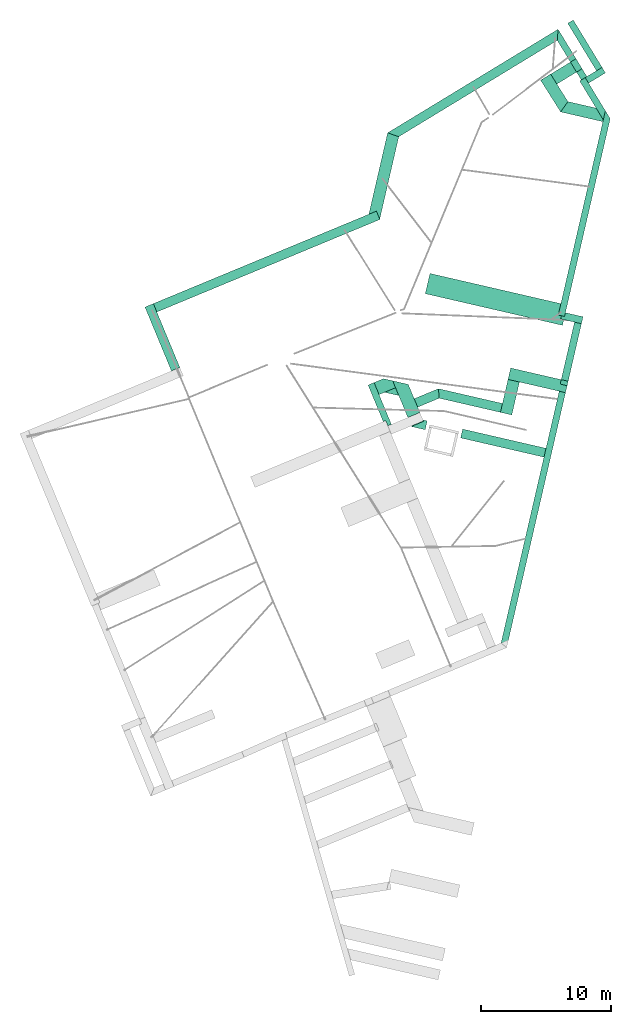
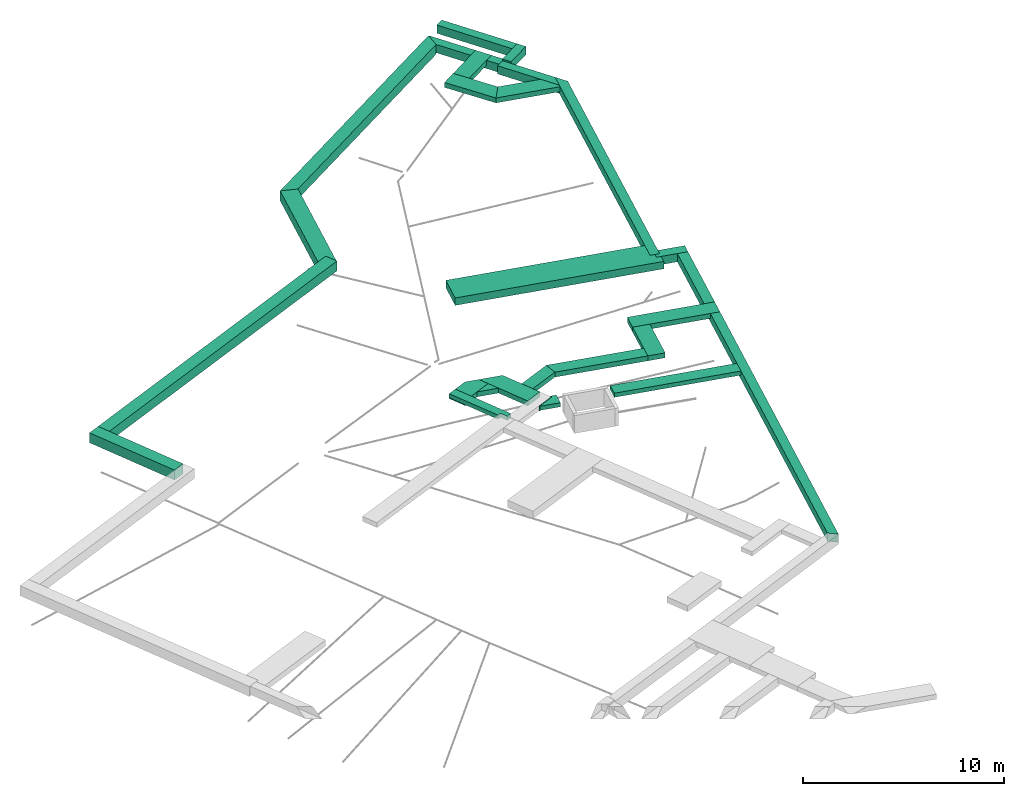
# One storey, part 5 of 6: 26 flow terminals.
"""IFC2X3 building model written with IfcOpenShell, lengths in metres."""

from ifc_helpers import new_model, entity, si_unit, converted_unit, derived_unit, money_unit, direction, frame, origin_with_axes, place, context, subcontext, project, spatial, faceted_brep, material, type_object, element, save


model = new_model("IFC2X3")

# Units and contexts
model_context = context("Model", 3, precision=1e-05, world=origin_with_axes(), true_north=direction((0.0, 1.0)))
body_context = subcontext(model_context, "Body", "Model", "MODEL_VIEW")
ifc_project = project(units=[si_unit("LENGTHUNIT", "METRE"), si_unit("AREAUNIT", "SQUARE_METRE"), si_unit("VOLUMEUNIT", "CUBIC_METRE"), converted_unit("PLANEANGLEUNIT", "DEGREE", entity("IfcPlaneAngleMeasure", 0.0174532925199), si_unit("PLANEANGLEUNIT", "RADIAN"), dimensions=[0, 0, 0, 0, 0, 0, 0]), si_unit("SOLIDANGLEUNIT", "STERADIAN"), money_unit("EUR"), converted_unit("TIMEUNIT", "Year", entity("IfcTimeMeasure", 31556926.0), si_unit("TIMEUNIT", "SECOND"), dimensions=[0, 0, 1, 0, 0, 0, 0]), si_unit("MASSUNIT", "GRAM", prefix="KILO"), si_unit("THERMODYNAMICTEMPERATUREUNIT", "DEGREE_CELSIUS"), si_unit("LUMINOUSINTENSITYUNIT", "LUMEN"), si_unit("ENERGYUNIT", "JOULE", prefix="MEGA"), derived_unit("THERMALCONDUCTANCEUNIT", [(si_unit("POWERUNIT", "WATT"), 1), (si_unit("LENGTHUNIT", "METRE"), -1), (si_unit("THERMODYNAMICTEMPERATUREUNIT", "KELVIN"), -1)]), derived_unit("SPECIFICHEATCAPACITYUNIT", [(si_unit("ENERGYUNIT", "JOULE"), 1), (si_unit("MASSUNIT", "GRAM", prefix="KILO"), -1), (si_unit("THERMODYNAMICTEMPERATUREUNIT", "KELVIN"), -1)]), derived_unit("MASSDENSITYUNIT", [(si_unit("MASSUNIT", "GRAM", prefix="KILO"), 1), (si_unit("VOLUMEUNIT", "CUBIC_METRE"), -1)])], contexts=[model_context])

# Site, building, storey
site_placement = place(None, origin_with_axes())
site = spatial("IfcSite", under=ifc_project, at=site_placement, Name="Site", CompositionType="ELEMENT")
building_placement = place(site_placement, origin_with_axes())
building = spatial("IfcBuilding", under=site, at=building_placement, Name="Bâtiment", CompositionType="ELEMENT")
storey_placement = place(building_placement, frame((0.0, 0.0, -5.7), z_axis=(0.0, 0.0, 1.0), x_axis=(1.0, 0.0, 0.0)))
storey = spatial("IfcBuildingStorey", under=building, at=storey_placement, Name="-2. Etage", CompositionType="ELEMENT", Elevation=-5.7)

# Flow terminals
ifc_material = material(Name="Béton")
electric_appliance_type_1 = type_object("IfcElectricApplianceType", Name="Empattement 15", PredefinedType="WASHINGMACHINE")
flow_terminal_1_placement = place(storey_placement, frame((-14.0904183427, 11.6221148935, 1.85), z_axis=(0.0, 0.0, 1.0), x_axis=(1.0, 0.0, 0.0)))
element("IfcFlowTerminal", 1, at=flow_terminal_1_placement, inside=storey, type_object=electric_appliance_type_1, material=ifc_material, Name="Semelle filante:(90x60T) ex", context=body_context, shape_type="Brep", body=[
    faceted_brep([(1.44540482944, 6.63701743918, 0.0), (1.44540482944, 6.63701743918, 0.6), (1.44894355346, 6.63620074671, 0.6), (1.44894355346, 6.63620074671, 0.0), (1.44460822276, 6.63356574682, 0.0), (0.0, 0.374086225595, 0.0), (0.0, 0.374086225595, 0.6), (1.44460822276, 6.63356574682, 0.6), (0.582041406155, 0.615493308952, 0.0), (2.29907224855, 6.3337515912, 0.0), (0.837322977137, 0.0, 0.0), (0.582041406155, 0.615493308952, 0.6), (0.837322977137, 0.0, 0.6), (2.29907224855, 6.3337515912, 0.6)], [[[0, 1, 2, 3]], [[1, 0, 4, 5, 6, 7]], [[2, 1, 7]], [[7, 4, 3, 2]], [[0, 3, 4]], [[8, 5, 4, 9, 10]], [[8, 11, 6, 5]], [[6, 11, 12, 13, 7]], [[4, 7, 13, 9]], [[12, 10, 9, 13]], [[11, 8, 10, 12]]]),
])
electric_appliance_type_2 = type_object("IfcElectricApplianceType", Name="Empattement 14", PredefinedType="WASHINGMACHINE")
flow_terminal_2_placement = place(storey_placement, frame((0.0, 0.0, 2.45), z_axis=(0.0, 0.0, 1.0), x_axis=(1.0, 0.0, 0.0)))
element("IfcFlowTerminal", 2, at=flow_terminal_2_placement, inside=storey, type_object=electric_appliance_type_2, material=ifc_material, Name="Semelle filante:(90x30T)", context=body_context, shape_type="Brep", body=[
    faceted_brep([(1.83515172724, 23.9521040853, -0.3), (1.40788195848, 23.6924109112, -0.3), (1.40788195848, 23.6924109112, 0.0), (1.83515172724, 23.9521040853, 0.0), (2.30259943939, 23.1830185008, -0.3), (1.87532967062, 22.9233253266, -0.3), (0.362922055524, 22.0040889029, -0.3), (-0.118144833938, 22.7648967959, -0.3), (-0.118144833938, 22.7648967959, 0.0), (0.362922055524, 22.0040889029, 0.0), (1.87532967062, 22.9233253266, 0.0), (2.30259943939, 23.1830185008, 0.0)], [[[0, 1, 2, 3]], [[0, 4, 5, 6, 7, 1]], [[1, 7, 8, 2]], [[3, 2, 8, 9, 10, 11]], [[4, 0, 3, 11]], [[5, 4, 11, 10]], [[6, 5, 10, 9]], [[7, 6, 9, 8]]]),
    faceted_brep([(-0.883992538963, 22.292064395, -0.3), (-0.584053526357, 22.4817190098, -0.3), (-0.584053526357, 22.4817190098, 0.0), (-0.883992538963, 22.292064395, 0.0), (-0.887350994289, 22.2973757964, -0.3), (-0.887350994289, 22.2973757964, 0.0)], [[[0, 1, 2, 3]], [[0, 4, 1]], [[1, 4, 5, 2]], [[3, 2, 5]], [[4, 0, 3, 5]]]),
])
electric_appliance_type_3 = type_object("IfcElectricApplianceType", Name="IFC Footing Extruded", PredefinedType="WASHINGMACHINE")
flow_terminal_3_placement = place(storey_placement, frame((0.0, 0.0, 2.45), z_axis=(0.0, 0.0, 1.0), x_axis=(1.0, 0.0, 0.0)))
element("IfcFlowTerminal", 3, at=flow_terminal_3_placement, inside=storey, type_object=electric_appliance_type_3, material=ifc_material, Name="Semelle filante:(100x30T)", context=body_context, shape_type="Brep", body=[
    faceted_brep([(-11.7897046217, -1.94358203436, -0.3), (-12.0390824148, -1.34232089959, -0.3), (-12.0390824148, -1.34232089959, 0.0), (-11.7897046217, -1.94358203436, 0.0), (-12.8813285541, -1.69164912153, -0.3), (-12.8813285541, -1.69164912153, 0.0)], [[[0, 1, 2, 3]], [[0, 4, 1]], [[1, 4, 5, 2]], [[3, 2, 5]], [[4, 0, 3, 5]]]),
])
flow_terminal_4_placement = place(storey_placement, frame((0.0, 0.0, 2.45), z_axis=(0.0, 0.0, 1.0), x_axis=(1.0, 0.0, 0.0)))
element("IfcFlowTerminal", 4, at=flow_terminal_4_placement, inside=storey, type_object=electric_appliance_type_3, material=ifc_material, Name="Semelle filante:(160x45T)", context=body_context, shape_type="Brep", body=[
    faceted_brep([(-9.75315861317, 5.88690147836, -0.45), (0.796740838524, 3.45223142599, -0.45), (0.796740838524, 3.45223142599, 0.0), (-9.75315861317, 5.88690147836, 0.0), (-9.3933724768, 7.44592487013, -0.45), (1.1565269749, 5.01125481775, -0.45), (1.0216061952, 4.42661680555, -0.45), (0.778009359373, 4.48283585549, -0.45), (0.654327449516, 3.94692281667, -0.45), (0.897929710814, 3.8907025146, -0.45), (0.897929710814, 3.8907025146, 0.0), (0.654327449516, 3.94692281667, 0.0), (0.778009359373, 4.48283585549, 0.0), (1.0216061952, 4.42661680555, 0.0), (1.1565269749, 5.01125481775, 0.0), (-9.3933724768, 7.44592487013, 0.0)], [[[0, 1, 2, 3]], [[0, 4, 5, 6, 7, 8, 9, 1]], [[1, 9, 10, 2]], [[3, 2, 10, 11, 12, 13, 14, 15]], [[4, 0, 3, 15]], [[5, 4, 15, 14]], [[6, 5, 14, 13]], [[7, 6, 13, 12]], [[8, 7, 12, 11]], [[9, 8, 11, 10]]]),
])
flow_terminal_5_placement = place(storey_placement, frame((0.0, 0.0, 2.45), z_axis=(0.0, 0.0, 1.0), x_axis=(1.0, 0.0, 0.0)))
element("IfcFlowTerminal", 5, at=flow_terminal_5_placement, inside=storey, type_object=electric_appliance_type_3, material=ifc_material, Name="Semelle filante:(50x25T)", context=body_context, shape_type="Brep", body=[
    faceted_brep([(-12.9851849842, -3.94854390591, 0.0), (-13.7686151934, -2.05965824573, 0.0), (-13.7686151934, -2.05965824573, -0.25), (-12.9851849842, -3.94854390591, -0.25), (-12.7982340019, -3.87100451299, 0.0), (-12.6325796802, -4.27040457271, 0.0), (-12.3576798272, -4.1563876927, 0.0), (-13.3067643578, -1.86810197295, 0.0), (-13.6898769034, -0.944400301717, 0.0), (-14.151727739, -1.1359565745, 0.0), (-14.151727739, -1.1359565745, -0.25), (-13.6898769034, -0.944400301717, -0.25), (-13.3067643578, -1.86810197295, -0.25), (-12.3576798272, -4.1563876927, -0.25), (-12.6325796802, -4.27040457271, -0.25), (-12.7982340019, -3.87100451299, -0.25)], [[[0, 1, 2, 3]], [[0, 4, 5, 6, 7, 8, 9, 1]], [[1, 9, 10, 2]], [[3, 2, 10, 11, 12, 13, 14, 15]], [[4, 0, 3, 15]], [[5, 4, 15, 14]], [[6, 5, 14, 13]], [[7, 6, 13, 12]], [[8, 7, 12, 11]], [[9, 8, 11, 10]]]),
])
flow_terminal_6_placement = place(storey_placement, frame((0.0, 0.0, 2.45), z_axis=(0.0, 0.0, 1.0), x_axis=(1.0, 0.0, 0.0)))
element("IfcFlowTerminal", 6, at=flow_terminal_6_placement, inside=storey, type_object=electric_appliance_type_3, material=ifc_material, Name="Semelle filante:(70x30T)", context=body_context, shape_type="Brep", body=[
    faceted_brep([(-8.68248253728, -2.14754639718, -0.3), (-3.97652122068, -3.23362238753, -0.3), (-3.97652122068, -3.23362238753, 0.0), (-8.68248253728, -2.14754639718, 0.0), (-8.74354766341, -1.41505320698, -0.3), (-3.81910788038, -2.55155124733, -0.3), (-3.81910788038, -2.55155124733, 0.0), (-8.74354766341, -1.41505320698, 0.0)], [[[0, 1, 2, 3]], [[0, 4, 5, 1]], [[1, 5, 6, 2]], [[3, 2, 6, 7]], [[4, 0, 3, 7]], [[5, 4, 7, 6]]]),
])
flow_terminal_7_placement = place(storey_placement, frame((0.0, 0.0, 2.45), z_axis=(0.0, 0.0, 1.0), x_axis=(1.0, 0.0, 0.0)))
element("IfcFlowTerminal", 7, at=flow_terminal_7_placement, inside=storey, type_object=electric_appliance_type_3, material=ifc_material, Name="Semelle filante:(70x30T)", context=body_context, shape_type="Brep", body=[
    faceted_brep([(-10.6059392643, -2.18749479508, -0.3), (-10.3377604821, -2.8340859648, -0.3), (-10.3377604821, -2.8340859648, 0.0), (-10.6059392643, -2.18749479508, 0.0), (-8.74354766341, -1.41505320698, -0.3), (-8.68248253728, -2.14754639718, -0.3), (-8.68248253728, -2.14754639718, 0.0), (-8.74354766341, -1.41505320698, 0.0)], [[[0, 1, 2, 3]], [[0, 4, 5, 1]], [[1, 5, 6, 2]], [[3, 2, 6, 7]], [[4, 0, 3, 7]], [[5, 4, 7, 6]]]),
])
flow_terminal_8_placement = place(storey_placement, frame((0.0, 0.0, 2.45), z_axis=(0.0, 0.0, 1.0), x_axis=(1.0, 0.0, 0.0)))
element("IfcFlowTerminal", 8, at=flow_terminal_8_placement, inside=storey, type_object=electric_appliance_type_3, material=ifc_material, Name="Semelle filante:(90x30T)", context=body_context, shape_type="Brep", body=[
    faceted_brep([(1.23030715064, -0.843291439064, -0.3), (-3.18945451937, 0.176733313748, -0.3), (-3.18945451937, 0.176733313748, 0.0), (1.23030715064, -0.843291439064, 0.0), (1.0279185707, -1.720240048, -0.3), (-3.39184309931, -0.700215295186, -0.3), (-3.39184309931, -0.700215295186, 0.0), (1.0279185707, -1.720240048, 0.0)], [[[0, 1, 2, 3]], [[0, 4, 5, 1]], [[1, 5, 6, 2]], [[3, 2, 6, 7]], [[4, 0, 3, 7]], [[5, 4, 7, 6]]]),
])
flow_terminal_9_placement = place(storey_placement, frame((0.0, 0.0, 2.45), z_axis=(0.0, 0.0, 1.0), x_axis=(1.0, 0.0, 0.0)))
element("IfcFlowTerminal", 9, at=flow_terminal_9_placement, inside=storey, type_object=electric_appliance_type_3, material=ifc_material, Name="Semelle filante:(90x30T)", context=body_context, shape_type="Brep", body=[
    faceted_brep([(-3.09957261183, -3.43601096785, -0.3), (-2.51489449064, -0.902603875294, -0.3), (-2.51489449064, -0.902603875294, 0.0), (-3.09957261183, -3.43601096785, 0.0), (-3.97652122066, -3.23362238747, -0.3), (-3.39184309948, -0.700215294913, -0.3), (-3.39184309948, -0.700215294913, 0.0), (-3.97652122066, -3.23362238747, 0.0)], [[[0, 1, 2, 3]], [[0, 4, 5, 1]], [[1, 5, 6, 2]], [[3, 2, 6, 7]], [[4, 0, 3, 7]], [[5, 4, 7, 6]]]),
])
flow_terminal_10_placement = place(storey_placement, frame((0.0, 0.0, 2.45), z_axis=(0.0, 0.0, 1.0), x_axis=(1.0, 0.0, 0.0)))
element("IfcFlowTerminal", 10, at=flow_terminal_10_placement, inside=storey, type_object=electric_appliance_type_3, material=ifc_material, Name="Semelle filante:(90x30T)", context=body_context, shape_type="Brep", body=[
    faceted_brep([(-0.883992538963, 22.292064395, -0.3), (0.652603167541, 19.8619363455, -0.3), (0.652603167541, 19.8619363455, 0.0), (-0.883992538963, 22.292064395, 0.0), (-0.584053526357, 22.4817190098, -0.3), (-0.123303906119, 22.7730558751, -0.3), (-0.118144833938, 22.7648967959, -0.3), (0.362922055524, 22.0040889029, -0.3), (1.21553818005, 20.6556754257, -0.3), (1.21553818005, 20.6556754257, 0.0), (0.362922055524, 22.0040889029, 0.0), (-0.118144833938, 22.7648967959, 0.0), (-0.123303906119, 22.7730558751, 0.0), (-0.584053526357, 22.4817190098, 0.0)], [[[0, 1, 2, 3]], [[0, 4, 5, 6, 7, 8, 1]], [[1, 8, 9, 2]], [[3, 2, 9, 10, 11, 12, 13]], [[4, 0, 3, 13]], [[5, 4, 13, 12]], [[6, 5, 12, 11]], [[7, 6, 11, 10]], [[8, 7, 10, 9]]]),
])
flow_terminal_11_placement = place(storey_placement, frame((0.0, 0.0, 2.45), z_axis=(0.0, 0.0, 1.0), x_axis=(1.0, 0.0, 0.0)))
element("IfcFlowTerminal", 11, at=flow_terminal_11_placement, inside=storey, type_object=electric_appliance_type_3, material=ifc_material, Name="Semelle filante:(90x30T)", context=body_context, shape_type="Brep", body=[
    faceted_brep([(1.21553818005, 20.6556754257, -0.3), (0.652603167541, 19.8619363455, -0.3), (0.652603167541, 19.8619363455, 0.0), (1.21553818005, 20.6556754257, 0.0), (3.38195363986, 20.155694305, -0.3), (3.93020141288, 19.253669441, -0.3), (3.89773829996, 19.113000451, -0.3), (3.89773829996, 19.113000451, 0.0), (3.93020141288, 19.253669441, 0.0), (3.38195363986, 20.155694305, 0.0)], [[[0, 1, 2, 3]], [[0, 4, 5, 6, 1]], [[1, 6, 7, 2]], [[3, 2, 7, 8, 9]], [[4, 0, 3, 9]], [[5, 4, 9, 8]], [[6, 5, 8, 7]]]),
])
flow_terminal_12_placement = place(storey_placement, frame((0.0, 0.0, 2.45), z_axis=(0.0, 0.0, 1.0), x_axis=(1.0, 0.0, 0.0)))
element("IfcFlowTerminal", 12, at=flow_terminal_12_placement, inside=storey, type_object=electric_appliance_type_3, material=ifc_material, Name="Semelle filante:(50x50T) ex", context=body_context, shape_type="Brep", body=[
    faceted_brep([(4.09122465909, 19.9514145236, -0.5), (3.93020141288, 19.253669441, -0.5), (3.93020141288, 19.253669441, 0.0), (4.09122465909, 19.9514145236, 0.0), (4.46314905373, 19.3394921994, -0.5), (1.0216061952, 4.42661680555, -0.5), (0.954146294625, 4.13429991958, -0.5), (0.710545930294, 4.19051718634, -0.5), (0.466951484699, 4.2467330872, -0.5), (0.466951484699, 4.2467330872, 0.0), (0.710545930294, 4.19051718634, 0.0), (0.954146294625, 4.13429991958, 0.0), (1.0216061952, 4.42661680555, 0.0), (4.46314905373, 19.3394921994, 0.0)], [[[0, 1, 2, 3]], [[0, 4, 5, 6, 7, 8, 1]], [[1, 8, 9, 2]], [[3, 2, 9, 10, 11, 12, 13]], [[4, 0, 3, 13]], [[5, 4, 13, 12]], [[6, 5, 12, 11]], [[7, 6, 11, 10]], [[8, 7, 10, 9]]]),
])
flow_terminal_13_placement = place(storey_placement, frame((0.0, 0.0, 2.45), z_axis=(0.0, 0.0, 1.0), x_axis=(1.0, 0.0, 0.0)))
element("IfcFlowTerminal", 13, at=flow_terminal_13_placement, inside=storey, type_object=electric_appliance_type_3, material=ifc_material, Name="Semelle filante:(50x50T) ex", context=body_context, shape_type="Brep", body=[
    faceted_brep([(2.11414978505, 22.2415953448, -0.5), (3.93020141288, 19.253669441, -0.5), (3.93020141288, 19.253669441, 0.0), (2.11414978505, 22.2415953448, 0.0), (2.24233072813, 22.3195033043, -0.5), (2.54141955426, 22.5012885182, -0.5), (2.75391782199, 22.1516679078, -0.5), (4.09122465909, 19.9514145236, -0.5), (4.09122465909, 19.9514145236, 0.0), (2.75391782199, 22.1516679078, 0.0), (2.54141955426, 22.5012885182, 0.0), (2.24233072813, 22.3195033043, 0.0)], [[[0, 1, 2, 3]], [[0, 4, 5, 6, 7, 1]], [[1, 7, 8, 2]], [[3, 2, 8, 9, 10, 11]], [[4, 0, 3, 11]], [[5, 4, 11, 10]], [[6, 5, 10, 9]], [[7, 6, 9, 8]]]),
])
flow_terminal_14_placement = place(storey_placement, frame((0.0, 0.0, 2.45), z_axis=(0.0, 0.0, 1.0), x_axis=(1.0, 0.0, 0.0)))
element("IfcFlowTerminal", 14, at=flow_terminal_14_placement, inside=storey, type_object=electric_appliance_type_3, material=ifc_material, Name="Semelle filante:(50x50T) ex", context=body_context, shape_type="Brep", body=[
    faceted_brep([(2.2521101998, 3.57817488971, -0.5), (2.37579210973, 4.11408792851, -0.5), (2.37579210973, 4.11408792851, 0.0), (2.2521101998, 3.57817488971, 0.0), (1.71619716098, 3.70185679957, -0.5), (0.654327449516, 3.94692281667, -0.5), (0.710545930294, 4.19051718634, -0.5), (0.954146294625, 4.13429991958, -0.5), (1.0216061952, 4.42661680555, -0.5), (1.0216061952, 4.42661680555, 0.0), (0.954146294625, 4.13429991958, 0.0), (0.710545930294, 4.19051718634, 0.0), (0.654327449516, 3.94692281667, 0.0), (1.71619716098, 3.70185679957, 0.0)], [[[0, 1, 2, 3]], [[0, 4, 5, 6, 7, 8, 1]], [[1, 8, 9, 2]], [[3, 2, 9, 10, 11, 12, 13]], [[4, 0, 3, 13]], [[5, 4, 13, 12]], [[6, 5, 12, 11]], [[7, 6, 11, 10]], [[8, 7, 10, 9]]]),
])
flow_terminal_15_placement = place(storey_placement, frame((0.0, 0.0, 2.45), z_axis=(0.0, 0.0, 1.0), x_axis=(1.0, 0.0, 0.0)))
element("IfcFlowTerminal", 15, at=flow_terminal_15_placement, inside=storey, type_object=electric_appliance_type_3, material=ifc_material, Name="Semelle filante:(50x50T) ex", context=body_context, shape_type="Brep", body=[
    faceted_brep([(1.19619134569, 26.668804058, -0.4), (3.40877717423, 23.0284656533, -0.4), (3.40877717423, 23.0284656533, 0.1), (1.19619134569, 26.668804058, 0.1), (1.62346111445, 26.9284972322, -0.4), (3.83604694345, 23.2881588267, -0.4), (3.83604694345, 23.2881588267, 0.1), (1.62346111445, 26.9284972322, 0.1)], [[[0, 1, 2, 3]], [[0, 4, 5, 1]], [[1, 5, 6, 2]], [[3, 2, 6, 7]], [[4, 0, 3, 7]], [[5, 4, 7, 6]]]),
])
flow_terminal_16_placement = place(storey_placement, frame((0.0, 0.0, 2.45), z_axis=(0.0, 0.0, 1.0), x_axis=(1.0, 0.0, 0.0)))
element("IfcFlowTerminal", 16, at=flow_terminal_16_placement, inside=storey, type_object=electric_appliance_type_3, material=ifc_material, Name="Semelle filante:(50x50T) ex", context=body_context, shape_type="Brep", body=[
    faceted_brep([(2.80111272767, 22.074018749, -0.4), (4.0957401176, 22.8608890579, -0.4), (4.0957401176, 22.8608890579, 0.1), (2.80111272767, 22.074018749, 0.1), (2.75391782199, 22.1516679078, -0.4), (2.54141955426, 22.5012885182, -0.4), (2.66960049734, 22.5791964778, -0.4), (3.40877717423, 23.0284656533, -0.4), (3.83604694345, 23.2881588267, -0.4), (3.83604694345, 23.2881588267, 0.1), (3.40877717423, 23.0284656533, 0.1), (2.66960049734, 22.5791964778, 0.1), (2.54141955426, 22.5012885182, 0.1), (2.75391782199, 22.1516679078, 0.1)], [[[0, 1, 2, 3]], [[0, 4, 5, 6, 7, 8, 1]], [[1, 8, 9, 2]], [[3, 2, 9, 10, 11, 12, 13]], [[4, 0, 3, 13]], [[5, 4, 13, 12]], [[6, 5, 12, 11]], [[7, 6, 11, 10]], [[8, 7, 10, 9]]]),
])
flow_terminal_17_placement = place(storey_placement, frame((0.0, 0.0, 2.45), z_axis=(0.0, 0.0, 1.0), x_axis=(1.0, 0.0, 0.0)))
element("IfcFlowTerminal", 17, at=flow_terminal_17_placement, inside=storey, type_object=electric_appliance_type_3, material=ifc_material, Name="Semelle filante:(70x25T)", context=body_context, shape_type="Brep", body=[
    faceted_brep([(-7.03673426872, -5.19895764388, -0.25), (-0.629554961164, -6.67861336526, -0.25), (-0.629554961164, -6.67861336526, 0.0), (-7.03673426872, -5.19895764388, 0.0), (-6.87922387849, -4.51690890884, -0.25), (-0.472141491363, -5.9965422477, -0.25), (-0.472141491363, -5.9965422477, 0.0), (-6.87922387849, -4.51690890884, 0.0)], [[[0, 1, 2, 3]], [[0, 4, 5, 1]], [[1, 5, 6, 2]], [[3, 2, 6, 7]], [[4, 0, 3, 7]], [[5, 4, 7, 6]]]),
])
flow_terminal_18_placement = place(storey_placement, frame((0.0, 0.0, 2.45), z_axis=(0.0, 0.0, 1.0), x_axis=(1.0, 0.0, 0.0)))
element("IfcFlowTerminal", 18, at=flow_terminal_18_placement, inside=storey, type_object=electric_appliance_type_3, material=ifc_material, Name="Semelle filante:(70x25T)", context=body_context, shape_type="Brep", body=[
    faceted_brep([(-9.60254105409, -3.88840195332, -0.25), (-9.93201183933, -3.81236428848, -0.25), (-9.93201183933, -3.81236428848, 0.0), (-9.60254105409, -3.88840195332, 0.0), (-9.75995439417, -4.57047309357, -0.25), (-10.7997068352, -4.33051146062, -0.25), (-10.8091211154, -4.30781320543, -0.25), (-9.88541944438, -3.9247006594, -0.25), (-9.89811743, -3.89408524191, -0.25), (-9.89811743, -3.89408524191, 0.0), (-9.88541944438, -3.9247006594, 0.0), (-10.8091211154, -4.30781320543, 0.0), (-10.7997068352, -4.33051146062, 0.0), (-9.75995439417, -4.57047309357, 0.0)], [[[0, 1, 2, 3]], [[0, 4, 5, 6, 7, 8, 1]], [[1, 8, 9, 2]], [[3, 2, 9, 10, 11, 12, 13]], [[4, 0, 3, 13]], [[5, 4, 13, 12]], [[6, 5, 12, 11]], [[7, 6, 11, 10]], [[8, 7, 10, 9]]]),
])
flow_terminal_19_placement = place(storey_placement, frame((0.0, 0.0, 2.45), z_axis=(0.0, 0.0, 1.0), x_axis=(1.0, 0.0, 0.0)))
element("IfcFlowTerminal", 19, at=flow_terminal_19_placement, inside=storey, type_object=electric_appliance_type_3, material=ifc_material, Name="Semelle filante:(70x60T) ex", context=body_context, shape_type="Brep", body=[
    faceted_brep([(-31.3030577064, 4.85709894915, -0.6), (-29.2676664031, -0.0503036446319, -0.6), (-29.2676664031, -0.0503036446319, 0.0), (-31.3030577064, 4.85709894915, 0.0), (-30.6564668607, 5.12527851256, -0.6), (-30.3882872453, 4.47868768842, -0.6), (-28.6210752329, 0.217875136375, -0.6), (-28.6210752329, 0.217875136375, 0.0), (-30.3882872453, 4.47868768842, 0.0), (-30.6564668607, 5.12527851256, 0.0)], [[[0, 1, 2, 3]], [[0, 4, 5, 6, 1]], [[1, 6, 7, 2]], [[3, 2, 7, 8, 9]], [[4, 0, 3, 9]], [[5, 4, 9, 8]], [[6, 5, 8, 7]]]),
])
flow_terminal_20_placement = place(storey_placement, frame((0.0, 0.0, 2.45), z_axis=(0.0, 0.0, 1.0), x_axis=(1.0, 0.0, 0.0)))
element("IfcFlowTerminal", 20, at=flow_terminal_20_placement, inside=storey, type_object=electric_appliance_type_3, material=ifc_material, Name="Semelle filante:(70x60T) ex", context=body_context, shape_type="Brep", body=[
    faceted_brep([(-13.5083769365, 12.2376082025, -0.6), (-14.0904183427, 11.9962011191, -0.6), (-14.0904183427, 11.9962011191, 0.0), (-13.5083769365, 12.2376082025, 0.0), (-13.2530953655, 11.6221148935, -0.6), (-13.2401973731, 11.5910173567, -0.6), (-30.3882872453, 4.47868768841, -0.6), (-30.6564668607, 5.12527851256, -0.6), (-30.6564668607, 5.12527851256, 0.0), (-30.3882872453, 4.47868768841, 0.0), (-13.2401973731, 11.5910173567, 0.0), (-13.2530953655, 11.6221148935, 0.0)], [[[0, 1, 2, 3]], [[0, 4, 5, 6, 7, 1]], [[1, 7, 8, 2]], [[3, 2, 8, 9, 10, 11]], [[4, 0, 3, 11]], [[5, 4, 11, 10]], [[6, 5, 10, 9]], [[7, 6, 9, 8]]]),
])
flow_terminal_21_placement = place(storey_placement, frame((0.0, 0.0, 2.45), z_axis=(0.0, 0.0, 1.0), x_axis=(1.0, 0.0, 0.0)))
element("IfcFlowTerminal", 21, at=flow_terminal_21_placement, inside=storey, type_object=electric_appliance_type_3, material=ifc_material, Name="Semelle filante:(70x60T) ex", context=body_context, shape_type="Brep", body=[
    faceted_brep([(-11.7913460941, 17.9558664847, -0.6), (0.3933153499, 25.361664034, -0.6), (0.3933153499, 25.361664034, 0.0), (-11.7913460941, 17.9558664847, 0.0), (-12.6458101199, 18.2556806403, -0.6), (-12.6414747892, 18.2583156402, -0.6), (0.457014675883, 26.2195348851, -0.6), (0.457014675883, 26.2195348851, 0.0), (-12.6414747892, 18.2583156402, 0.0), (-12.6458101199, 18.2556806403, 0.0)], [[[0, 1, 2, 3]], [[0, 4, 5, 6, 1]], [[1, 6, 7, 2]], [[3, 2, 7, 8, 9]], [[4, 0, 3, 9]], [[5, 4, 9, 8]], [[6, 5, 8, 7]]]),
])
electric_appliance_type_4 = type_object("IfcElectricApplianceType", Name="Empattement 1", PredefinedType="WASHINGMACHINE")
flow_terminal_22_placement = place(storey_placement, frame((0.0, 0.0, 2.45), z_axis=(0.0, 0.0, 1.0), x_axis=(1.0, 0.0, 0.0)))
element("IfcFlowTerminal", 22, at=flow_terminal_22_placement, inside=storey, type_object=electric_appliance_type_4, material=ifc_material, Name="Semelle filante:(100x30T)", context=body_context, shape_type="Brep", body=[
    faceted_brep([(-9.89811743, -3.89408524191, -0.3), (-10.821819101, -4.27719778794, -0.3), (-10.821819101, -4.27719778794, 0.0), (-9.89811743, -3.89408524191, 0.0), (-9.88541944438, -3.9247006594, -0.3), (-10.8091211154, -4.30781320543, -0.3), (-10.8091211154, -4.30781320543, 0.0), (-9.88541944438, -3.9247006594, 0.0)], [[[0, 1, 2, 3]], [[0, 4, 5, 1]], [[1, 5, 6, 2]], [[3, 2, 6, 7]], [[4, 0, 3, 7]], [[5, 4, 7, 6]]]),
    faceted_brep([(-12.2604222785, -0.808660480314, -0.3), (-12.0390824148, -1.34232089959, -0.3), (-12.0390824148, -1.34232089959, 0.0), (-12.2604222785, -0.808660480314, 0.0), (-11.0632249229, -1.0849583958, -0.3), (-10.6059392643, -2.18749479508, -0.3), (-10.3377604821, -2.8340859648, -0.3), (-10.1662962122, -3.24749407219, -0.3), (-11.0899978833, -3.63060661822, -0.3), (-11.7897046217, -1.94358203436, -0.3), (-11.7897046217, -1.94358203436, 0.0), (-11.0899978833, -3.63060661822, 0.0), (-10.1662962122, -3.24749407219, 0.0), (-10.3377604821, -2.8340859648, 0.0), (-10.6059392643, -2.18749479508, 0.0), (-11.0632249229, -1.0849583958, 0.0)], [[[0, 1, 2, 3]], [[0, 4, 5, 6, 7, 8, 9, 1]], [[1, 9, 10, 2]], [[3, 2, 10, 11, 12, 13, 14, 15]], [[4, 0, 3, 15]], [[5, 4, 15, 14]], [[6, 5, 14, 13]], [[7, 6, 13, 12]], [[8, 7, 12, 11]], [[9, 8, 11, 10]]]),
])
electric_appliance_type_5 = type_object("IfcElectricApplianceType", Name="Empattement 2", PredefinedType="WASHINGMACHINE")
flow_terminal_23_placement = place(storey_placement, frame((-14.151727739, -2.05965824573, 2.15), z_axis=(0.0, 0.0, 1.0), x_axis=(1.0, 0.0, 0.0)))
element("IfcFlowTerminal", 23, at=flow_terminal_23_placement, inside=storey, type_object=electric_appliance_type_5, material=ifc_material, Name="Semelle filante:(100x30T)", context=body_context, shape_type="Brep", body=[
    faceted_brep([(1.18316329, 1.41442796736, 0.3), (0.461850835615, 1.11525794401, 0.3), (0.844963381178, 0.191556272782, 0.3), (1.27039918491, 0.368009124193, 0.3), (2.1126453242, 0.717337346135, 0.3), (1.89130546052, 1.25099776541, 0.3), (1.18316329, 1.41442796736, 0.0), (0.0, 0.923701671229, 0.0), (0.0, 0.923701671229, 0.05), (0.461850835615, 1.11525794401, 0.05), (0.844963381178, 0.191556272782, 0.05), (0.383112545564, 0.0, 0.05), (0.383112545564, 0.0, 0.0), (1.27039918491, 0.368009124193, 0.0), (2.1126453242, 0.717337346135, 0.0), (1.89130546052, 1.25099776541, 0.0)], [[[0, 1, 2, 3, 4, 5]], [[6, 7, 8, 9, 1, 0]], [[9, 10, 2, 1]], [[11, 12, 13, 14, 4, 3, 2, 10]], [[5, 4, 14, 15]], [[6, 0, 5, 15]], [[7, 6, 15, 14, 13, 12]], [[7, 12, 11, 8]], [[10, 9, 8, 11]]]),
])
electric_appliance_type_6 = type_object("IfcElectricApplianceType", Name="Empattement 4", PredefinedType="WASHINGMACHINE")
flow_terminal_24_placement = place(storey_placement, frame((-3.92636428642, -21.3259483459, 1.95), z_axis=(0.0, 0.0, 1.0), x_axis=(1.0, 0.0, 0.0)))
element("IfcFlowTerminal", 24, at=flow_terminal_24_placement, inside=storey, type_object=electric_appliance_type_6, material=ifc_material, Name="Semelle filante:(50x50T) ex", context=body_context, shape_type="Brep", body=[
    faceted_brep([(5.0779647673, 20.1416213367, 0.0), (4.59077111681, 20.2540595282, 0.0), (4.59077111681, 20.2540595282, 0.2), (5.0779647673, 20.1416213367, 0.2), (0.567985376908, 0.599922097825, 0.0), (0.429530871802, 0.0, 0.0), (0.0, 0.362290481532, 0.0), (0.0, 0.362290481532, 0.5), (3.29680932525, 14.6473349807, 0.5), (3.45422279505, 15.3294060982, 0.5), (4.46708908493, 19.7181464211, 0.5), (4.46708908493, 19.7181464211, 0.2), (4.95428275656, 19.6057083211, 0.2), (4.95428275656, 19.6057083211, 0.5), (0.429530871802, 0.0, 0.5)], [[[0, 1, 2, 3]], [[1, 0, 4, 5, 6]], [[1, 6, 7, 8, 9, 10, 11, 2]], [[11, 12, 3, 2]], [[5, 4, 0, 3, 12, 13, 14]], [[14, 7, 6, 5]], [[7, 14, 13, 10, 9, 8]], [[12, 11, 10, 13]]]),
])
electric_appliance_type_7 = type_object("IfcElectricApplianceType", Name="Empattement 5", PredefinedType="WASHINGMACHINE")
flow_terminal_25_placement = place(storey_placement, frame((0.617002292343, -1.18463045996, 1.95), z_axis=(0.0, 0.0, 1.0), x_axis=(1.0, 0.0, 0.0)))
element("IfcFlowTerminal", 25, at=flow_terminal_25_placement, inside=storey, type_object=electric_appliance_type_7, material=ifc_material, Name="Semelle filante:(50x50T) ex", context=body_context, shape_type="Brep", body=[
    faceted_brep([(0.0, 0.123681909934, 0.0), (0.535913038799, 0.0, 0.0), (0.535913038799, 0.0, 0.5), (0.53459818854, 0.00030345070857, 0.5), (0.53459818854, 0.00030345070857, 0.2), (0.0, 0.123681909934, 0.2), (1.09919486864, 4.88648725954, 0.0), (1.63510790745, 4.76280534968, 0.0), (1.63510790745, 4.76280534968, 0.5), (1.09919486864, 4.88648725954, 0.5), (0.0787066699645, 0.464717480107, 0.5), (0.613304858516, 0.34133902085, 0.5), (0.613304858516, 0.34133902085, 0.2), (0.0787066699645, 0.464717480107, 0.2)], [[[0, 1, 2, 3, 4, 5]], [[1, 0, 6, 7]], [[2, 1, 7, 8]], [[8, 9, 10, 11, 3, 2]], [[11, 12, 4, 3]], [[12, 13, 5, 4]], [[6, 0, 5, 13, 10, 9]], [[6, 9, 8, 7]], [[12, 11, 10, 13]]]),
])
electric_appliance_type_8 = type_object("IfcElectricApplianceType", Name="Empattement 7", PredefinedType="WASHINGMACHINE")
flow_terminal_26_placement = place(storey_placement, frame((0.3933153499, 22.1516679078, 1.95), z_axis=(0.0, 0.0, 1.0), x_axis=(1.0, 0.0, 0.0)))
element("IfcFlowTerminal", 26, at=flow_terminal_26_placement, inside=storey, type_object=electric_appliance_type_8, material=ifc_material, Name="Semelle filante:(50x50T)", context=body_context, shape_type="Brep", body=[
    faceted_brep([(2.36060247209, 0.0, 0.0), (2.48878341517, 0.0779079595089, 0.0), (2.48878341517, 0.0779079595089, 0.1), (2.36060247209, 0.0, 0.1), (0.0948625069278, 4.01659460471, 0.0), (2.14810420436, 0.349620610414, 0.0), (1.84901537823, 0.16783539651, 0.0), (0.0, 3.20999612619, 0.0), (0.0582393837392, 3.99433518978, 0.0), (0.0948625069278, 4.01659460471, 0.5), (1.44183637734, 1.80043617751, 0.5), (1.44183637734, 1.80043617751, 0.2), (1.90928408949, 1.03135059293, 0.2), (1.90928408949, 1.03135059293, 0.5), (2.27628514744, 0.427528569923, 0.5), (2.27628514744, 0.427528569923, 0.1), (2.14810420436, 0.349620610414, 0.1), (1.84901537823, 0.16783539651, 0.5), (2.14810420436, 0.349620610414, 0.5), (1.48201432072, 0.771657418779, 0.5), (1.48201432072, 0.771657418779, 0.2), (1.01456660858, 1.54074300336, 0.2), (1.01456660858, 1.54074300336, 0.5), (0.0, 3.20999612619, 0.5), (0.0582393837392, 3.99433518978, 0.5)], [[[0, 1, 2, 3]], [[4, 1, 0, 5, 6, 7, 8]], [[4, 9, 10, 11, 12, 13, 14, 15, 2, 1]], [[15, 16, 3, 2]], [[5, 0, 3, 16]], [[17, 6, 5, 16, 15, 14, 18]], [[19, 20, 21, 22, 23, 7, 6, 17]], [[24, 8, 7, 23]], [[9, 4, 8, 24]], [[22, 10, 9, 24, 23]], [[21, 11, 10, 22]], [[20, 12, 11, 21]], [[12, 20, 19, 13]], [[13, 19, 17, 18, 14]]]),
])

save(model, "model.ifc")
